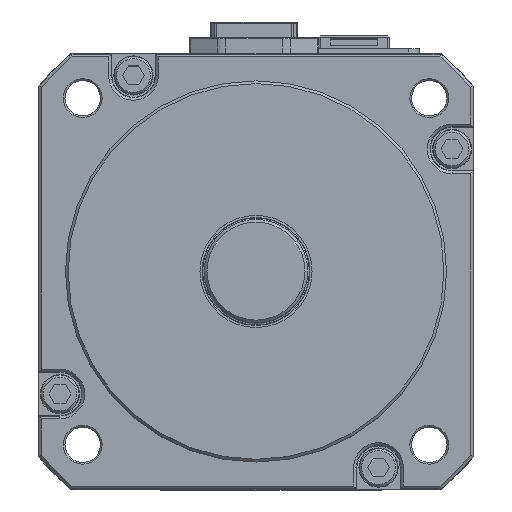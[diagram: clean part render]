
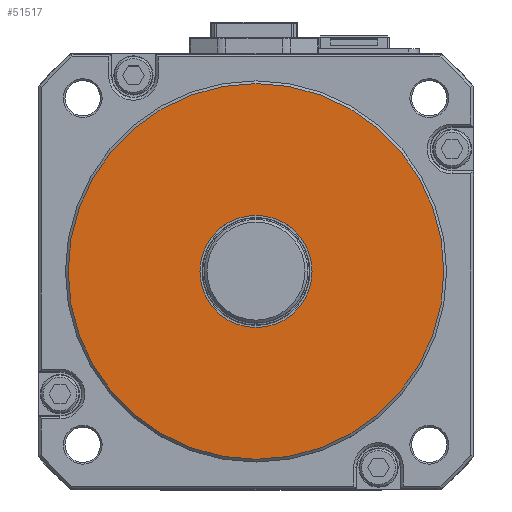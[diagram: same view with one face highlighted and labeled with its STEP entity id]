
A CAD part, top view. The second image highlights one B-rep face of the part: STEP entity #51517.
In plain terms, the highlighted planar face has unit normal (0, 0, 1).
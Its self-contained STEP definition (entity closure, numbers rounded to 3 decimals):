
#1062 = AXIS2_PLACEMENT_3D ( 'NONE', #3764, #58141, #56872 ) ;
#3764 = CARTESIAN_POINT ( 'NONE',  ( 0., 0., 13. ) ) ;
#7745 = EDGE_LOOP ( 'NONE', ( #31602 ) ) ;
#8160 = PLANE ( 'NONE',  #30107 ) ;
#12007 = CARTESIAN_POINT ( 'NONE',  ( 0., 0., 13. ) ) ;
#14513 = CIRCLE ( 'NONE', #1062, 10.3 ) ;
#16370 = CIRCLE ( 'NONE', #52370, 34.5 ) ;
#16823 = CARTESIAN_POINT ( 'NONE',  ( 10.3, 0., 13. ) ) ;
#18063 = DIRECTION ( 'NONE',  ( 0., 0., 1. ) ) ;
#19422 = CARTESIAN_POINT ( 'NONE',  ( 34.5, 0., 13. ) ) ;
#20224 = DIRECTION ( 'NONE',  ( 1., 0., 0. ) ) ;
#21951 = DIRECTION ( 'NONE',  ( 1., 0., 0. ) ) ;
#24897 = VERTEX_POINT ( 'NONE', #19422 ) ;
#25987 = CARTESIAN_POINT ( 'NONE',  ( 0., 0., 13. ) ) ;
#30107 = AXIS2_PLACEMENT_3D ( 'NONE', #12007, #18063, #21951 ) ;
#30332 = VERTEX_POINT ( 'NONE', #16823 ) ;
#31364 = ORIENTED_EDGE ( 'NONE', *, *, #55097, .F. ) ;
#31602 = ORIENTED_EDGE ( 'NONE', *, *, #48463, .T. ) ;
#42840 = FACE_BOUND ( 'NONE', #50047, .T. ) ;
#48463 = EDGE_CURVE ( 'NONE', #24897, #24897, #16370, .T. ) ;
#50047 = EDGE_LOOP ( 'NONE', ( #31364 ) ) ;
#51517 = ADVANCED_FACE ( 'NONE', ( #42840, #62207 ), #8160, .T. ) ;
#52370 = AXIS2_PLACEMENT_3D ( 'NONE', #25987, #55678, #20224 ) ;
#55097 = EDGE_CURVE ( 'NONE', #30332, #30332, #14513, .T. ) ;
#55678 = DIRECTION ( 'NONE',  ( 0., 0., 1. ) ) ;
#56872 = DIRECTION ( 'NONE',  ( 1., 0., 0. ) ) ;
#58141 = DIRECTION ( 'NONE',  ( 0., 0., 1. ) ) ;
#62207 = FACE_OUTER_BOUND ( 'NONE', #7745, .T. ) ;
